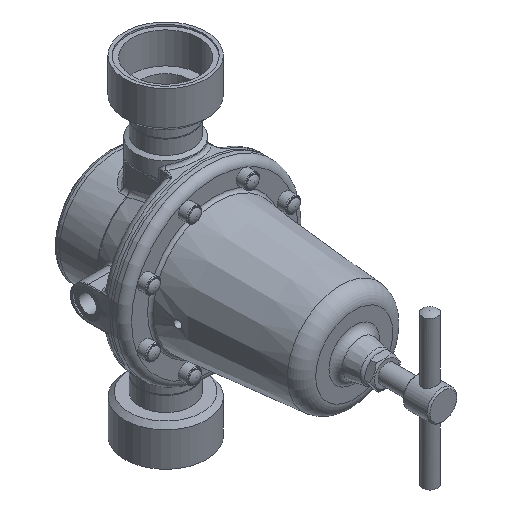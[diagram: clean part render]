
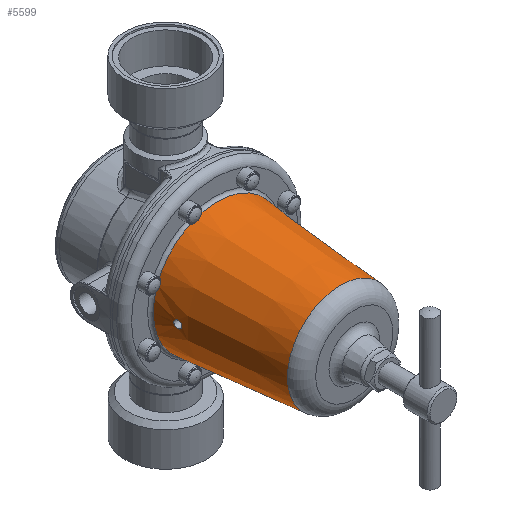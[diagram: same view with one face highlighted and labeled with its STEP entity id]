
A CAD part, isometric view. The second image highlights one B-rep face of the part: STEP entity #5599.
In plain terms, the highlighted conical face has half-angle 5 degrees and reference radius 39.523 mm.
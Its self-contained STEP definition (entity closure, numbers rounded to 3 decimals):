
#241=FACE_BOUND('',#1458,.T.);
#554=B_SPLINE_CURVE_WITH_KNOTS('',3,(#14962,#14963,#14964,#14965,#14966,
#14967,#14968,#14969,#14970,#14971,#14972,#14973,#14974,#14975,#14976,#14977,
#14978,#14979,#14980,#14981,#14982,#14983,#14984,#14985,#14986,#14987),
 .UNSPECIFIED.,.F.,.F.,(4,2,2,2,2,2,2,2,2,2,2,2,4),(0.,0.095,
0.189,0.284,0.378,0.473,
0.567,0.662,0.756,0.85,
0.944,1.038,1.132),.UNSPECIFIED.);
#555=B_SPLINE_CURVE_WITH_KNOTS('',3,(#14988,#14989,#14990,#14991,#14992,
#14993,#14994,#14995,#14996,#14997),.UNSPECIFIED.,.F.,.F.,(4,2,2,2,4),(1.132,
1.225,1.319,1.413,1.507),
 .UNSPECIFIED.);
#1054=FACE_OUTER_BOUND('',#1457,.T.);
#1457=EDGE_LOOP('',(#5009,#5010,#5011,#5012,#5013,#5014));
#1458=EDGE_LOOP('',(#5015,#5016));
#1747=LINE('',#15091,#1981);
#1981=VECTOR('',#7649,39.523);
#2302=CIRCLE('',#6279,35.89);
#2303=CIRCLE('',#6280,35.89);
#2305=CIRCLE('',#6283,43.156);
#2306=CIRCLE('',#6284,43.156);
#2758=VERTEX_POINT('',#14959);
#2759=VERTEX_POINT('',#14961);
#2787=VERTEX_POINT('',#15082);
#2788=VERTEX_POINT('',#15083);
#2789=VERTEX_POINT('',#15088);
#2790=VERTEX_POINT('',#15089);
#3507=EDGE_CURVE('',#2759,#2758,#554,.T.);
#3508=EDGE_CURVE('',#2758,#2759,#555,.T.);
#3549=EDGE_CURVE('',#2787,#2788,#2302,.T.);
#3550=EDGE_CURVE('',#2788,#2787,#2303,.T.);
#3552=EDGE_CURVE('',#2789,#2790,#2305,.T.);
#3553=EDGE_CURVE('',#2789,#2787,#1747,.T.);
#3554=EDGE_CURVE('',#2790,#2789,#2306,.T.);
#5009=ORIENTED_EDGE('',*,*,#3552,.F.);
#5010=ORIENTED_EDGE('',*,*,#3553,.T.);
#5011=ORIENTED_EDGE('',*,*,#3549,.T.);
#5012=ORIENTED_EDGE('',*,*,#3550,.T.);
#5013=ORIENTED_EDGE('',*,*,#3553,.F.);
#5014=ORIENTED_EDGE('',*,*,#3554,.F.);
#5015=ORIENTED_EDGE('',*,*,#3507,.T.);
#5016=ORIENTED_EDGE('',*,*,#3508,.T.);
#5317=CONICAL_SURFACE('',#6282,39.523,0.087);
#5599=ADVANCED_FACE('',(#1054,#241),#5317,.T.);
#6279=AXIS2_PLACEMENT_3D('',#15084,#7639,#7640);
#6280=AXIS2_PLACEMENT_3D('',#15085,#7641,#7642);
#6282=AXIS2_PLACEMENT_3D('',#15087,#7645,#7646);
#6283=AXIS2_PLACEMENT_3D('',#15090,#7647,#7648);
#6284=AXIS2_PLACEMENT_3D('',#15092,#7650,#7651);
#7639=DIRECTION('center_axis',(0.,-1.,0.));
#7640=DIRECTION('ref_axis',(1.,0.,0.));
#7641=DIRECTION('center_axis',(0.,-1.,0.));
#7642=DIRECTION('ref_axis',(1.,0.,0.));
#7645=DIRECTION('center_axis',(0.,-1.,0.));
#7646=DIRECTION('ref_axis',(1.,0.,0.));
#7647=DIRECTION('center_axis',(0.,-1.,0.));
#7648=DIRECTION('ref_axis',(1.,0.,0.));
#7649=DIRECTION('',(0.087,0.996,0.));
#7650=DIRECTION('center_axis',(0.,-1.,0.));
#7651=DIRECTION('ref_axis',(1.,0.,0.));
#14959=CARTESIAN_POINT('',(0.,27.49,-41.61));
#14961=CARTESIAN_POINT('',(-2.5,25.006,-41.753));
#14962=CARTESIAN_POINT('Ctrl Pts',(-2.5,25.006,-41.753));
#14963=CARTESIAN_POINT('Ctrl Pts',(-2.502,24.693,-41.78));
#14964=CARTESIAN_POINT('Ctrl Pts',(-2.44,24.358,-41.813));
#14965=CARTESIAN_POINT('Ctrl Pts',(-2.187,23.743,-41.881));
#14966=CARTESIAN_POINT('Ctrl Pts',(-1.994,23.462,-41.916));
#14967=CARTESIAN_POINT('Ctrl Pts',(-1.55,23.019,-41.973));
#14968=CARTESIAN_POINT('Ctrl Pts',(-1.269,22.827,-42.));
#14969=CARTESIAN_POINT('Ctrl Pts',(-0.651,22.572,
-42.037));
#14970=CARTESIAN_POINT('Ctrl Pts',(-0.315,22.51,
-42.046));
#14971=CARTESIAN_POINT('Ctrl Pts',(0.315,22.51,-42.046));
#14972=CARTESIAN_POINT('Ctrl Pts',(0.651,22.572,-42.037));
#14973=CARTESIAN_POINT('Ctrl Pts',(1.269,22.827,-42.));
#14974=CARTESIAN_POINT('Ctrl Pts',(1.55,23.019,-41.973));
#14975=CARTESIAN_POINT('Ctrl Pts',(1.994,23.462,-41.916));
#14976=CARTESIAN_POINT('Ctrl Pts',(2.187,23.743,-41.881));
#14977=CARTESIAN_POINT('Ctrl Pts',(2.44,24.358,-41.813));
#14978=CARTESIAN_POINT('Ctrl Pts',(2.502,24.693,-41.78));
#14979=CARTESIAN_POINT('Ctrl Pts',(2.498,25.319,-41.725));
#14980=CARTESIAN_POINT('Ctrl Pts',(2.434,25.652,-41.7));
#14981=CARTESIAN_POINT('Ctrl Pts',(2.176,26.265,-41.661));
#14982=CARTESIAN_POINT('Ctrl Pts',(1.982,26.545,-41.646));
#14983=CARTESIAN_POINT('Ctrl Pts',(1.538,26.985,-41.627));
#14984=CARTESIAN_POINT('Ctrl Pts',(1.258,27.176,-41.62));
#14985=CARTESIAN_POINT('Ctrl Pts',(0.645,27.428,-41.612));
#14986=CARTESIAN_POINT('Ctrl Pts',(0.312,27.49,-41.61));
#14987=CARTESIAN_POINT('Ctrl Pts',(0.,27.49,
-41.61));
#14988=CARTESIAN_POINT('Ctrl Pts',(0.,27.49,
-41.61));
#14989=CARTESIAN_POINT('Ctrl Pts',(-0.312,27.49,
-41.61));
#14990=CARTESIAN_POINT('Ctrl Pts',(-0.645,27.428,
-41.612));
#14991=CARTESIAN_POINT('Ctrl Pts',(-1.258,27.176,-41.62));
#14992=CARTESIAN_POINT('Ctrl Pts',(-1.538,26.985,-41.627));
#14993=CARTESIAN_POINT('Ctrl Pts',(-1.982,26.545,-41.646));
#14994=CARTESIAN_POINT('Ctrl Pts',(-2.176,26.265,-41.661));
#14995=CARTESIAN_POINT('Ctrl Pts',(-2.434,25.652,-41.7));
#14996=CARTESIAN_POINT('Ctrl Pts',(-2.498,25.319,-41.725));
#14997=CARTESIAN_POINT('Ctrl Pts',(-2.5,25.006,-41.753));
#15082=CARTESIAN_POINT('',(-35.89,92.872,0.));
#15083=CARTESIAN_POINT('',(0.,92.872,35.89));
#15084=CARTESIAN_POINT('Origin',(0.,92.872,0.));
#15085=CARTESIAN_POINT('Origin',(0.,92.872,0.));
#15087=CARTESIAN_POINT('Origin',(0.,51.349,0.));
#15088=CARTESIAN_POINT('',(-43.156,9.826,0.));
#15089=CARTESIAN_POINT('',(0.,9.826,43.156));
#15090=CARTESIAN_POINT('Origin',(0.,9.826,0.));
#15091=CARTESIAN_POINT('',(-39.523,51.349,0.));
#15092=CARTESIAN_POINT('Origin',(0.,9.826,0.));
